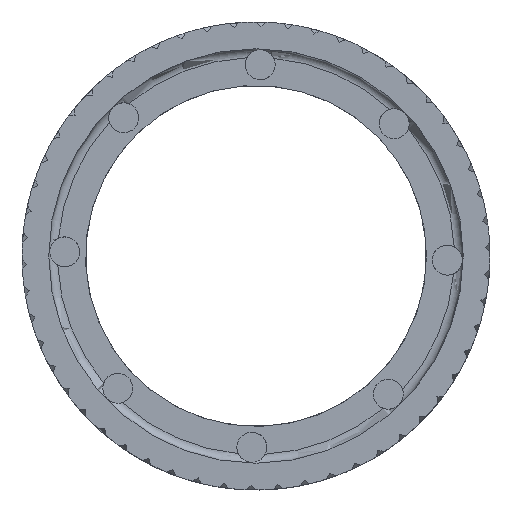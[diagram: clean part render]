
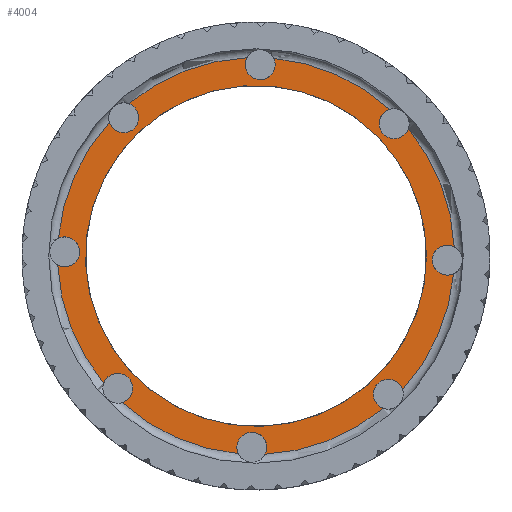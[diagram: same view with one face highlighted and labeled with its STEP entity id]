
A CAD part, top view. The second image highlights one B-rep face of the part: STEP entity #4004.
In plain terms, the highlighted planar face has unit normal (0, 0, 1).
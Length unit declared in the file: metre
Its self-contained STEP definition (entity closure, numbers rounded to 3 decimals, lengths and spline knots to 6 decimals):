
#433=PLANE('',#4261);
#508=CIRCLE('',#4262,0.03375);
#509=CIRCLE('',#4263,0.00255);
#510=CIRCLE('',#4264,0.03375);
#511=CIRCLE('',#4265,0.00255);
#512=CIRCLE('',#4266,0.03375);
#513=CIRCLE('',#4267,0.00255);
#514=CIRCLE('',#4268,0.03375);
#515=CIRCLE('',#4269,0.00255);
#516=CIRCLE('',#4270,0.03375);
#517=CIRCLE('',#4271,0.00255);
#518=CIRCLE('',#4272,0.03375);
#519=CIRCLE('',#4273,0.00255);
#520=CIRCLE('',#4274,0.03375);
#521=CIRCLE('',#4275,0.00255);
#522=CIRCLE('',#4276,0.03375);
#523=CIRCLE('',#4277,0.00255);
#524=CIRCLE('',#4278,0.029);
#690=ORIENTED_EDGE('',*,*,#2052,.T.);
#691=ORIENTED_EDGE('',*,*,#2053,.T.);
#692=ORIENTED_EDGE('',*,*,#2054,.T.);
#693=ORIENTED_EDGE('',*,*,#2055,.T.);
#694=ORIENTED_EDGE('',*,*,#2056,.T.);
#695=ORIENTED_EDGE('',*,*,#2057,.T.);
#696=ORIENTED_EDGE('',*,*,#2058,.T.);
#697=ORIENTED_EDGE('',*,*,#2059,.T.);
#698=ORIENTED_EDGE('',*,*,#2060,.T.);
#699=ORIENTED_EDGE('',*,*,#2061,.T.);
#700=ORIENTED_EDGE('',*,*,#2062,.T.);
#701=ORIENTED_EDGE('',*,*,#2063,.T.);
#702=ORIENTED_EDGE('',*,*,#2064,.T.);
#703=ORIENTED_EDGE('',*,*,#2065,.T.);
#704=ORIENTED_EDGE('',*,*,#2066,.T.);
#705=ORIENTED_EDGE('',*,*,#2067,.T.);
#706=ORIENTED_EDGE('',*,*,#2068,.T.);
#2052=EDGE_CURVE('',#2733,#2734,#508,.F.);
#2053=EDGE_CURVE('',#2734,#2735,#509,.T.);
#2054=EDGE_CURVE('',#2735,#2736,#510,.F.);
#2055=EDGE_CURVE('',#2736,#2737,#511,.T.);
#2056=EDGE_CURVE('',#2737,#2738,#512,.F.);
#2057=EDGE_CURVE('',#2738,#2739,#513,.T.);
#2058=EDGE_CURVE('',#2739,#2740,#514,.F.);
#2059=EDGE_CURVE('',#2740,#2741,#515,.T.);
#2060=EDGE_CURVE('',#2741,#2742,#516,.F.);
#2061=EDGE_CURVE('',#2742,#2743,#517,.T.);
#2062=EDGE_CURVE('',#2743,#2744,#518,.F.);
#2063=EDGE_CURVE('',#2744,#2745,#519,.T.);
#2064=EDGE_CURVE('',#2745,#2746,#520,.F.);
#2065=EDGE_CURVE('',#2746,#2747,#521,.T.);
#2066=EDGE_CURVE('',#2747,#2748,#522,.F.);
#2067=EDGE_CURVE('',#2748,#2733,#523,.T.);
#2068=EDGE_CURVE('',#2749,#2749,#524,.T.);
#2733=VERTEX_POINT('',#5231);
#2734=VERTEX_POINT('',#5232);
#2735=VERTEX_POINT('',#5234);
#2736=VERTEX_POINT('',#5236);
#2737=VERTEX_POINT('',#5238);
#2738=VERTEX_POINT('',#5240);
#2739=VERTEX_POINT('',#5242);
#2740=VERTEX_POINT('',#5244);
#2741=VERTEX_POINT('',#5246);
#2742=VERTEX_POINT('',#5248);
#2743=VERTEX_POINT('',#5250);
#2744=VERTEX_POINT('',#5252);
#2745=VERTEX_POINT('',#5254);
#2746=VERTEX_POINT('',#5256);
#2747=VERTEX_POINT('',#5258);
#2748=VERTEX_POINT('',#5260);
#2749=VERTEX_POINT('',#5263);
#3483=EDGE_LOOP('',(#690,#691,#692,#693,#694,#695,#696,#697,#698,#699,#700,
#701,#702,#703,#704,#705));
#3484=EDGE_LOOP('',(#706));
#3743=FACE_BOUND('',#3483,.T.);
#3744=FACE_BOUND('',#3484,.T.);
#4004=ADVANCED_FACE('',(#3743,#3744),#433,.F.);
#4261=AXIS2_PLACEMENT_3D('',#5229,#4497,#4498);
#4262=AXIS2_PLACEMENT_3D('',#5230,#4499,#4500);
#4263=AXIS2_PLACEMENT_3D('',#5233,#4501,#4502);
#4264=AXIS2_PLACEMENT_3D('',#5235,#4503,#4504);
#4265=AXIS2_PLACEMENT_3D('',#5237,#4505,#4506);
#4266=AXIS2_PLACEMENT_3D('',#5239,#4507,#4508);
#4267=AXIS2_PLACEMENT_3D('',#5241,#4509,#4510);
#4268=AXIS2_PLACEMENT_3D('',#5243,#4511,#4512);
#4269=AXIS2_PLACEMENT_3D('',#5245,#4513,#4514);
#4270=AXIS2_PLACEMENT_3D('',#5247,#4515,#4516);
#4271=AXIS2_PLACEMENT_3D('',#5249,#4517,#4518);
#4272=AXIS2_PLACEMENT_3D('',#5251,#4519,#4520);
#4273=AXIS2_PLACEMENT_3D('',#5253,#4521,#4522);
#4274=AXIS2_PLACEMENT_3D('',#5255,#4523,#4524);
#4275=AXIS2_PLACEMENT_3D('',#5257,#4525,#4526);
#4276=AXIS2_PLACEMENT_3D('',#5259,#4527,#4528);
#4277=AXIS2_PLACEMENT_3D('',#5261,#4529,#4530);
#4278=AXIS2_PLACEMENT_3D('',#5262,#4531,#4532);
#4497=DIRECTION('',(0.,0.,-1.));
#4498=DIRECTION('',(0.819,0.574,0.));
#4499=DIRECTION('',(0.,0.,-1.));
#4500=DIRECTION('',(1.,0.,0.));
#4501=DIRECTION('',(0.,0.,-1.));
#4502=DIRECTION('',(1.,0.,0.));
#4503=DIRECTION('',(0.,0.,-1.));
#4504=DIRECTION('',(1.,0.,0.));
#4505=DIRECTION('',(0.,0.,-1.));
#4506=DIRECTION('',(1.,0.,0.));
#4507=DIRECTION('',(0.,0.,-1.));
#4508=DIRECTION('',(1.,0.,0.));
#4509=DIRECTION('',(0.,0.,-1.));
#4510=DIRECTION('',(1.,0.,0.));
#4511=DIRECTION('',(0.,0.,-1.));
#4512=DIRECTION('',(1.,0.,0.));
#4513=DIRECTION('',(0.,0.,-1.));
#4514=DIRECTION('',(1.,0.,0.));
#4515=DIRECTION('',(0.,0.,-1.));
#4516=DIRECTION('',(1.,0.,0.));
#4517=DIRECTION('',(0.,0.,-1.));
#4518=DIRECTION('',(1.,0.,0.));
#4519=DIRECTION('',(0.,0.,-1.));
#4520=DIRECTION('',(1.,0.,0.));
#4521=DIRECTION('',(0.,0.,-1.));
#4522=DIRECTION('',(1.,0.,0.));
#4523=DIRECTION('',(0.,0.,-1.));
#4524=DIRECTION('',(1.,0.,0.));
#4525=DIRECTION('',(0.,0.,-1.));
#4526=DIRECTION('',(1.,0.,0.));
#4527=DIRECTION('',(0.,0.,-1.));
#4528=DIRECTION('',(1.,0.,0.));
#4529=DIRECTION('',(0.,0.,-1.));
#4530=DIRECTION('',(1.,0.,0.));
#4531=DIRECTION('',(0.,0.,-1.));
#4532=DIRECTION('',(1.,0.,0.));
#5229=CARTESIAN_POINT('',(0.,0.,0.0718));
#5230=CARTESIAN_POINT('',(0.,0.,0.0718));
#5231=CARTESIAN_POINT('',(-0.024942,0.022737,0.0718));
#5232=CARTESIAN_POINT('',(-0.033615,0.00302,0.0718));
#5233=CARTESIAN_POINT('',(-0.032542,0.000706,0.0718));
#5234=CARTESIAN_POINT('',(-0.033714,-0.001559,0.0718));
#5235=CARTESIAN_POINT('',(0.,0.,0.0718));
#5236=CARTESIAN_POINT('',(-0.025904,-0.021634,0.0718));
#5237=CARTESIAN_POINT('',(-0.02351,-0.022512,0.0718));
#5238=CARTESIAN_POINT('',(-0.022737,-0.024942,0.0718));
#5239=CARTESIAN_POINT('',(0.,0.,0.0718));
#5240=CARTESIAN_POINT('',(-0.00302,-0.033615,0.0718));
#5241=CARTESIAN_POINT('',(-0.000706,-0.032542,0.0718));
#5242=CARTESIAN_POINT('',(0.001559,-0.033714,0.0718));
#5243=CARTESIAN_POINT('',(0.,0.,0.0718));
#5244=CARTESIAN_POINT('',(0.021634,-0.025904,0.0718));
#5245=CARTESIAN_POINT('',(0.022512,-0.02351,0.0718));
#5246=CARTESIAN_POINT('',(0.024942,-0.022737,0.0718));
#5247=CARTESIAN_POINT('',(0.,0.,0.0718));
#5248=CARTESIAN_POINT('',(0.033615,-0.00302,0.0718));
#5249=CARTESIAN_POINT('',(0.032542,-0.000706,0.0718));
#5250=CARTESIAN_POINT('',(0.033714,0.001559,0.0718));
#5251=CARTESIAN_POINT('',(0.,0.,0.0718));
#5252=CARTESIAN_POINT('',(0.025904,0.021634,0.0718));
#5253=CARTESIAN_POINT('',(0.02351,0.022512,0.0718));
#5254=CARTESIAN_POINT('',(0.022737,0.024942,0.0718));
#5255=CARTESIAN_POINT('',(0.,0.,0.0718));
#5256=CARTESIAN_POINT('',(0.00302,0.033615,0.0718));
#5257=CARTESIAN_POINT('',(0.000706,0.032542,0.0718));
#5258=CARTESIAN_POINT('',(-0.001559,0.033714,0.0718));
#5259=CARTESIAN_POINT('',(0.,0.,0.0718));
#5260=CARTESIAN_POINT('',(-0.021634,0.025904,0.0718));
#5261=CARTESIAN_POINT('',(-0.022512,0.02351,0.0718));
#5262=CARTESIAN_POINT('',(0.,0.,0.0718));
#5263=CARTESIAN_POINT('',(0.029,0.,0.0718));
